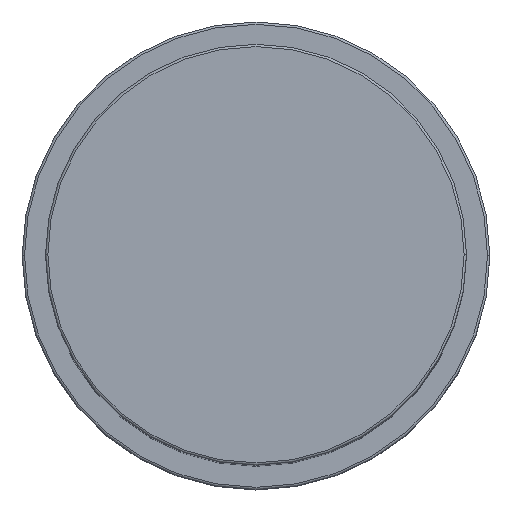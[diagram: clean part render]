
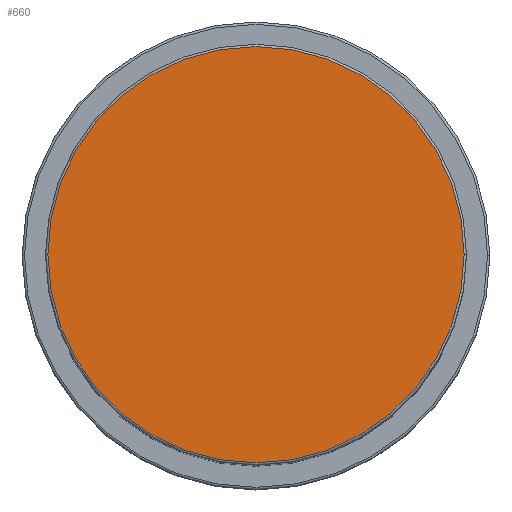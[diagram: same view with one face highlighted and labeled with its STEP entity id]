
A CAD part, top view. The second image highlights one B-rep face of the part: STEP entity #660.
In plain terms, the highlighted planar face has unit normal (0, 0, 1).
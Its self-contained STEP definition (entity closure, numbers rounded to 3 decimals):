
#10 = CARTESIAN_POINT ( 'NONE',  ( -44.5, 0., 154. ) ) ;
#111 = VERTEX_POINT ( 'NONE', #10 ) ;
#193 = ORIENTED_EDGE ( 'NONE', *, *, #1364, .T. ) ;
#229 = ORIENTED_EDGE ( 'NONE', *, *, #935, .T. ) ;
#534 = CARTESIAN_POINT ( 'NONE',  ( 44.5, 0., 154. ) ) ;
#566 = VERTEX_POINT ( 'NONE', #534 ) ;
#628 = AXIS2_PLACEMENT_3D ( 'NONE', #1224, #1077, #1503 ) ;
#633 = CIRCLE ( 'NONE', #628, 44.5 ) ;
#660 = ADVANCED_FACE ( 'NONE', ( #1616 ), #885, .T. ) ;
#824 = DIRECTION ( 'NONE',  ( 1., 0., 0. ) ) ;
#847 = AXIS2_PLACEMENT_3D ( 'NONE', #1297, #1303, #1448 ) ;
#885 = PLANE ( 'NONE',  #847 ) ;
#935 = EDGE_CURVE ( 'NONE', #566, #111, #1302, .T. ) ;
#980 = CARTESIAN_POINT ( 'NONE',  ( 0., 0., 154. ) ) ;
#1077 = DIRECTION ( 'NONE',  ( 0., 0., 1. ) ) ;
#1086 = DIRECTION ( 'NONE',  ( 0., 0., 1. ) ) ;
#1224 = CARTESIAN_POINT ( 'NONE',  ( 0., 0., 154. ) ) ;
#1297 = CARTESIAN_POINT ( 'NONE',  ( 0., 0., 154. ) ) ;
#1302 = CIRCLE ( 'NONE', #1395, 44.5 ) ;
#1303 = DIRECTION ( 'NONE',  ( 0., 0., 1. ) ) ;
#1335 = EDGE_LOOP ( 'NONE', ( #229, #193 ) ) ;
#1364 = EDGE_CURVE ( 'NONE', #111, #566, #633, .T. ) ;
#1395 = AXIS2_PLACEMENT_3D ( 'NONE', #980, #1086, #824 ) ;
#1448 = DIRECTION ( 'NONE',  ( 1., 0., 0. ) ) ;
#1503 = DIRECTION ( 'NONE',  ( 1., 0., 0. ) ) ;
#1616 = FACE_OUTER_BOUND ( 'NONE', #1335, .T. ) ;
